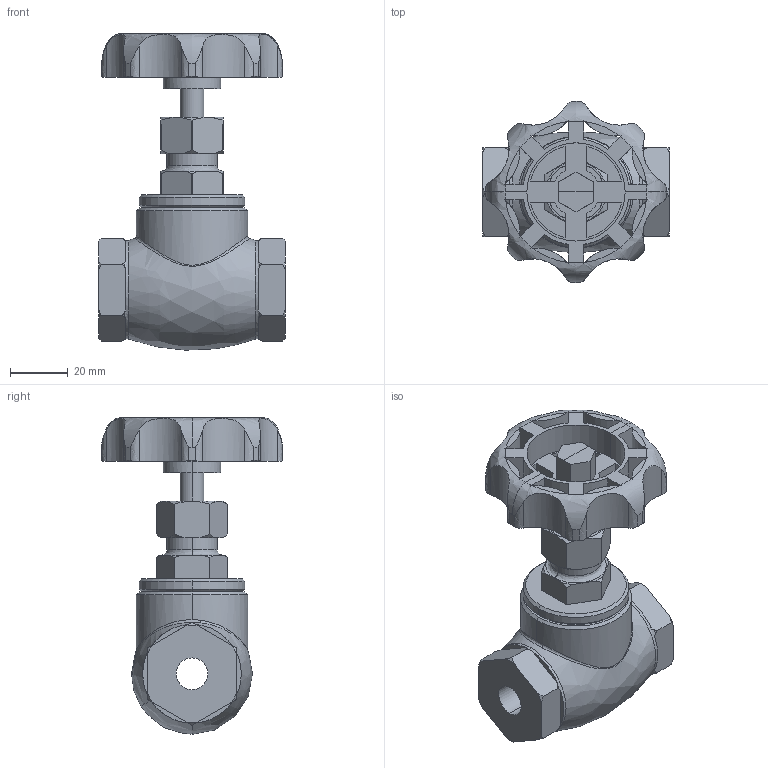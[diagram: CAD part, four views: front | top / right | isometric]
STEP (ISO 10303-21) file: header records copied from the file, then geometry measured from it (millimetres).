
FILE_DESCRIPTION( (''), '2;1');
FILE_NAME ('PC1027.9568.3D GLV-10 8A_14082.stp','2025-07-28T11:23:19',(''),(''),'spGate 19.8.4 (****-****-****-****)','','');
FILE_SCHEMA (('AUTOMOTIVE_DESIGN'));
Length unit declared in the file: millimetre
Bounding box: 65 x 63 x 110.02 mm (x, y, z)
Volume: 116462 mm3; surface area: 29534.9 mm2
Topology: 1 solids, 1 shells, 238 faces, 692 edges, 451 vertices
Faces by surface type: bspline 98, plane 80, cylinder 60
Entity records: 16004 total; most frequent: CARTESIAN_POINT 5314, ORIENTED_EDGE 1380, COLOUR_RGB 929, PRESENTATION_STYLE_ASSIGNMENT 929, STYLED_ITEM 929, DIRECTION 912, EDGE_CURVE 690, DRAUGHTING_PRE_DEFINED_CURVE_FONT 690
